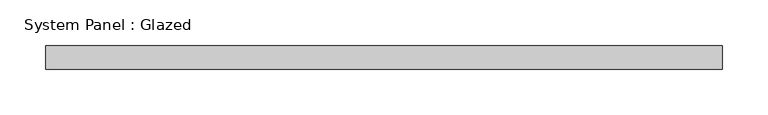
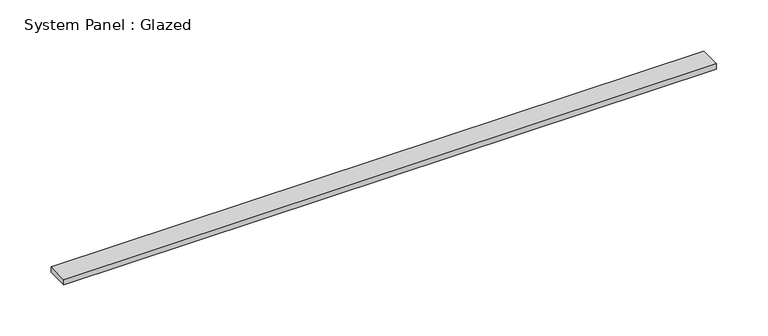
"""IFC4 building model written with IfcOpenShell, lengths in millimetres: plate geometry, System Panel : Glazed."""

from ifc_helpers import new_model, si_unit, origin, origin_with_axes, place, context, project, spatial, polyline, outline, extrude, source, transform, mapped, element, save


def system_panel_glazed_50fd444c(model_context):
    return source(origin(), model_context, "Body", "SweptSolid", [
        extrude(outline(polyline([(369.57, -44.45), (-369.57, -44.45), (-369.57, -19.05), (369.57, -19.05), (369.57, -44.45)])), origin_with_axes(), (0.0, 0.0, 1.0), 6.35),
    ])


if __name__ == "__main__":
    model = new_model("IFC4")
    model_context = context("Model", 3, world=origin())
    ifc_project = project(units=[si_unit("LENGTHUNIT", "METRE", prefix="MILLI")], contexts=[model_context])
    site = spatial("IfcSite", under=ifc_project)
    building = spatial("IfcBuilding", under=site)
    placement = place(None, origin())
    system_panel_glazed_shape = system_panel_glazed_50fd444c(model_context)
    element("IfcPlate", 1, ObjectType="System Panel : Glazed", at=placement, inside=building, context=model_context, shape_type="MappedRepresentation", body=[
        mapped(system_panel_glazed_shape, transform((0.0, 0.0, 0.0), x_axis=(1.0, 0.0, 0.0), y_axis=(0.0, 1.0, 0.0), z_axis=(0.0, 0.0, 1.0))),
    ])
    save(model, "model.ifc")
